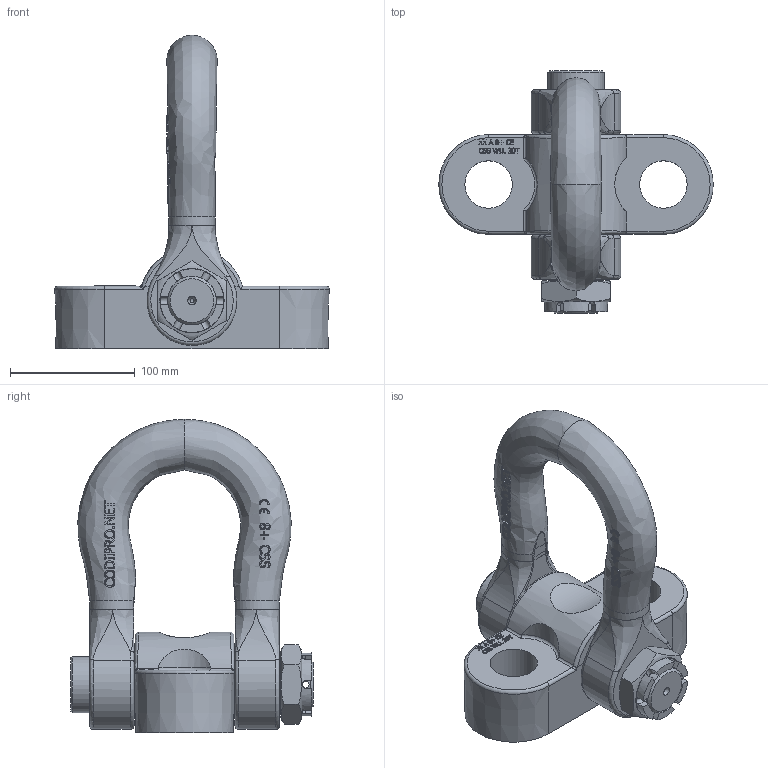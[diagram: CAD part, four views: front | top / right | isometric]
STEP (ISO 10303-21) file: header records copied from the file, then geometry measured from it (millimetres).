
FILE_DESCRIPTION(/* description */ (''),/* implementation_level */ '2;1');
FILE_NAME(/* name */ 'W:\CODIPRO\DOCUMENTS\Plans A NE PAS DIFFUSER !!!\Fichiers STEP\Gamme 2018\Produits NON GRADUP\CSS\CSS 20.stp',/* time_stamp */ '2017-10-26T14:38:27+02:00',/* author */ ('rklenes'),/* organization */ (''),/* preprocessor_version */ 'ST-DEVELOPER v16.5',/* originating_system */ 'Autodesk Inventor 2017',/* authorisation */ '');
FILE_SCHEMA (('AUTOMOTIVE_DESIGN { 1 0 10303 214 3 1 1 }'));
Length unit declared in the file: millimetre
Products named in the file (5): CSS 20; CSS_SEM20; CSA_AXE; CSM_MAN; CSE_ECR
Assembly tree (4 placements, depth 2):
  CSS 20
    CSS_SEM20
    CSA_AXE
    CSM_MAN
    CSE_ECR
Bounding box: 219.91 x 194 x 251 mm (x, y, z)
Volume: 1662690.8 mm3; surface area: 204113.6 mm2
Topology: 6 solids, 6 shells, 684 faces, 1831 edges, 1206 vertices
Faces by surface type: plane 302, bspline 293, cylinder 62, torus 16, cone 11
Full cylindrical faces by diameter (mm): 3.15 x1, 5.5 x1, 38 x2, 39 x2, 40 x4, 45 x1
Entity records: 27005 total; most frequent: CARTESIAN_POINT 11669, ORIENTED_EDGE 3604, DIRECTION 2240, EDGE_CURVE 1802, VERTEX_POINT 1202, LINE 862, VECTOR 862, EDGE_LOOP 772
